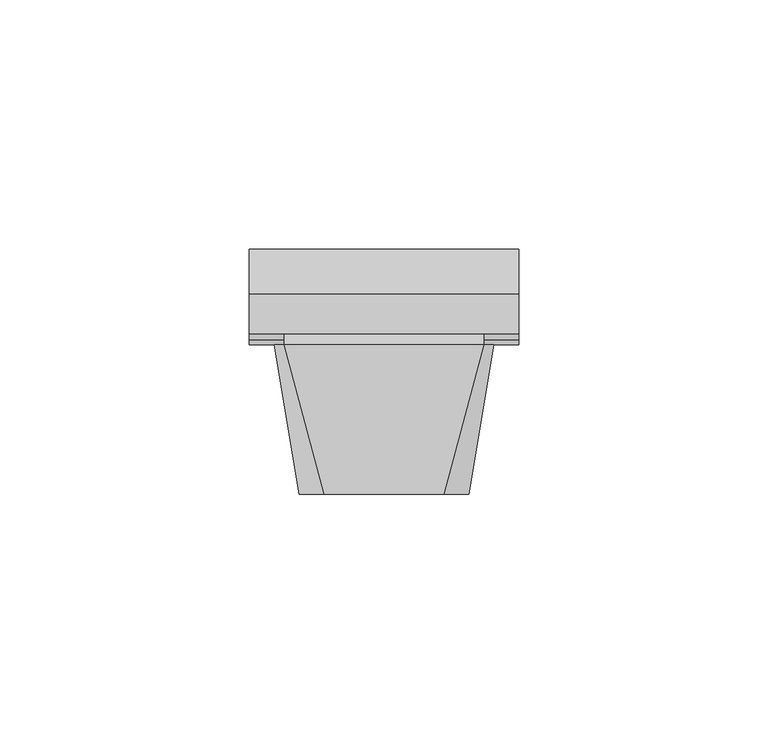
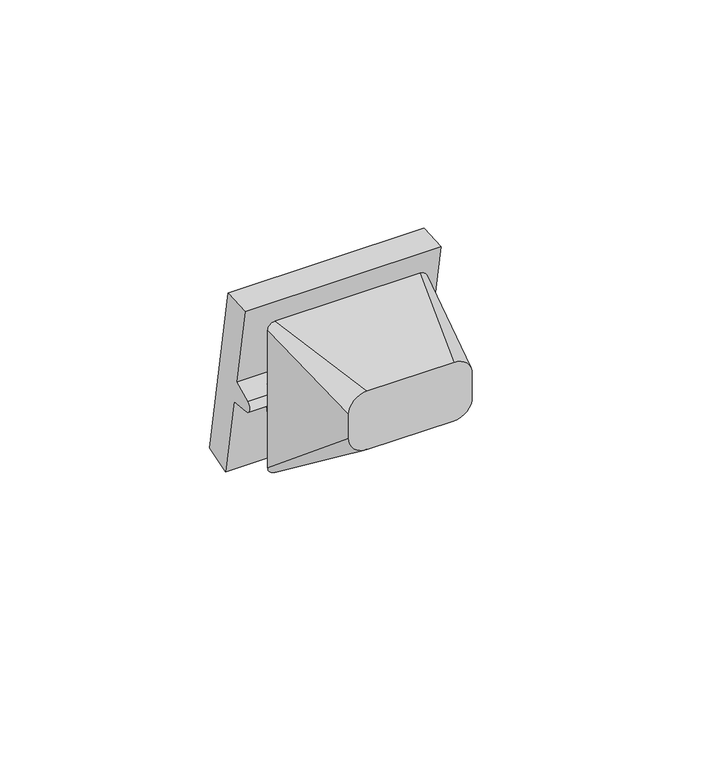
"""IFC4 building model written with IfcOpenShell, lengths in millimetres: proxy geometry, IEK_Brite_Механизм выключателя : В1 СВ_ВС10-1-4-БрА."""

from ifc_helpers import new_model, si_unit, point, frame, frame_2d, origin, place, context, project, spatial, polyline, circle_curve, trimmed, segment, composite_curve, outline, extrude, source, transform, mapped, element, save
from ifc_brep_helpers import plane_surface, spline_surface, advanced_brep


def electrical_fixtures_887a49c7(model_context):
    return source(origin(), model_context, "Body", "SolidModel", [
        advanced_brep(
        [(-12.0, -30.0, 17.0), (-17.0, -30.0, 12.0), (-17.0, -30.0, 5.0), (-12.0, -30.0, 0.0), (12.0, -30.0, 0.0), (17.0, -30.0, 5.0), (17.0, -30.0, 12.0), (12.0, -30.0, 17.0), (20.0, 0.0, 22.0), (22.0, 0.0, 20.0), (22.0, 0.0, -20.0), (20.0, 0.0, -22.0), (-20.0, 0.0, -22.0), (-22.0, 0.0, -20.0), (-22.0, 0.0, 20.0), (-20.0, 0.0, 22.0), (20.0, 4.4942733, -3.0892494), (-20.0, 4.4942733, -3.0892494)],
        [
            (0, 1, circle_curve(frame((-12.0, -30.0, 12.0), z_axis=(0.0, -1.0, 0.0), x_axis=(1.0, 0.0, 0.0)), 5.0)),
            (1, 2),
            (2, 3, circle_curve(frame((-12.0, -30.0, 5.0), z_axis=(0.0, -1.0, 0.0), x_axis=(1.0, 0.0, 0.0)), 5.0)),
            (3, 4),
            (4, 5, circle_curve(frame((12.0, -30.0, 5.0), z_axis=(0.0, -1.0, 0.0), x_axis=(1.0, 0.0, 0.0)), 5.0)),
            (5, 6),
            (6, 7, circle_curve(frame((12.0, -30.0, 12.0), z_axis=(0.0, -1.0, 0.0), x_axis=(1.0, 0.0, 0.0)), 5.0)),
            (7, 0),
            (8, 9, circle_curve(frame((20.0, 0.0, 20.0), z_axis=(0.0, 1.0, 0.0), x_axis=(1.0, 0.0, 0.0)), 2.0)),
            (9, 10),
            (10, 11, circle_curve(frame((20.0, 0.0, -20.0), z_axis=(0.0, 1.0, 0.0), x_axis=(1.0, 0.0, 0.0)), 2.0)),
            (11, 8),
            (12, 13, circle_curve(frame((-20.0, 0.0, -20.0), z_axis=(0.0, 1.0, 0.0), x_axis=(1.0, 0.0, 0.0)), 2.0)),
            (13, 14),
            (14, 15, circle_curve(frame((-20.0, 0.0, 20.0), z_axis=(0.0, 1.0, 0.0), x_axis=(1.0, 0.0, 0.0)), 2.0)),
            (15, 12),
            (7, 8),
            (8, 15),
            (15, 0),
            (6, 9),
            (5, 10),
            (4, 11),
            (3, 12),
            (12, 11),
            (2, 13),
            (1, 14),
            (11, 16),
            (16, 8),
            (15, 17),
            (17, 12),
            (17, 16),
        ],
        [
            plane_surface(frame((0.0, -30.0, 8.5), z_axis=(0.0, -1.0, 0.0), x_axis=(-1.0, 0.0, 0.0))),
            plane_surface(frame((0.0, 0.0, 0.0), z_axis=(0.0, 1.0, 0.0), x_axis=(-1.0, 0.0, 0.0))),
            plane_surface(frame((0.0, 0.0, 22.0), z_axis=(0.0, -0.16439898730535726, 0.9863939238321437), x_axis=(-1.0, 0.0, 0.0))),
            spline_surface(2, 1, [[(22.0, 0.0, 20.0), (17.0, -30.0, 12.0)], [(22.0, 0.0, 22.0), (17.0, -30.0, 17.0)], [(20.0, 0.0, 22.0), (12.0, -30.0, 17.0)]], [3, 3], [2, 2], [0.0, 1.0], [0.0, 1.0], weights=[[1.0, 1.0], [0.7071067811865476, 0.7071067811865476], [1.0, 1.0]]),
            plane_surface(frame((22.0, 0.0, 0.0), z_axis=(0.9863939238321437, -0.1643989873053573, 0.0), x_axis=(0.0, 0.0, 1.0))),
            spline_surface(2, 1, [[(20.0, 0.0, -22.0), (12.0, -30.0, 0.0)], [(22.0, 0.0, -22.0), (17.0, -30.0, 0.0)], [(22.0, 0.0, -20.0), (17.0, -30.0, 5.0)]], [3, 3], [2, 2], [0.0, 1.0], [0.0, 1.0], weights=[[1.0, 1.0], [0.7071067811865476, 0.7071067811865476], [1.0, 1.0]]),
            plane_surface(frame((0.0, 0.0, -22.0), z_axis=(0.0, -0.591363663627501, -0.8064049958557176), x_axis=(1.0, 0.0, 0.0))),
            spline_surface(2, 1, [[(-22.0, 0.0, -20.0), (-17.0, -30.0, 5.0)], [(-22.0, 0.0, -22.0), (-17.0, -30.0, 0.0)], [(-20.0, 0.0, -22.0), (-12.0, -30.0, 0.0)]], [3, 3], [2, 2], [0.0, 1.0], [0.0, 1.0], weights=[[1.0, 1.0], [0.7071067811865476, 0.7071067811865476], [1.0, 1.0]]),
            plane_surface(frame((-22.0, 0.0, 0.0), z_axis=(-0.9863939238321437, -0.1643989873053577, 0.0), x_axis=(0.0, 0.0, -1.0))),
            spline_surface(2, 1, [[(-20.0, 0.0, 22.0), (-12.0, -30.0, 17.0)], [(-22.0, 0.0, 22.0), (-17.0, -30.0, 17.0)], [(-22.0, 0.0, 20.0), (-17.0, -30.0, 12.0)]], [3, 3], [2, 2], [0.0, 1.0], [0.0, 1.0], weights=[[1.0, 1.0], [0.7071067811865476, 0.7071067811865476], [1.0, 1.0]]),
            plane_surface(frame((20.0, 0.0, -22.0), z_axis=(1.0, 0.0, 0.0), x_axis=(0.0, 0.23121707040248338, 0.9729021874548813))),
            plane_surface(frame((-20.0, 0.0, -22.0), z_axis=(-1.0, 0.0, 0.0), x_axis=(0.0, -0.23121707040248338, -0.9729021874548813))),
            plane_surface(frame((20.0, 0.0, -22.0), z_axis=(0.0, 0.9729021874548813, -0.23121707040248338), x_axis=(-1.0, 0.0, 0.0))),
            plane_surface(frame((20.0, 4.4942733, -3.0892494), z_axis=(0.0, 0.9843320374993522, 0.17632481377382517), x_axis=(-1.0, 0.0, 0.0))),
        ],
        [
            (0, [[1, 2, 3, 4, 5, 6, 7, 8]]),
            (1, [[9, 10, 11, 12]]),
            (1, [[13, 14, 15, 16]]),
            (2, [[-8, 17, 18, 19]]),
            (3, [[-7, 20, -9, -17]]),
            (4, [[-6, 21, -10, -20]]),
            (5, [[-5, 22, -11, -21]]),
            (6, [[-4, 23, 24, -22]]),
            (7, [[-3, 25, -13, -23]]),
            (8, [[-2, 26, -14, -25]]),
            (9, [[-1, -19, -15, -26]]),
            (10, [[27, 28, -12]]),
            (11, [[29, 30, -16]]),
            (12, [[-27, -24, -30, 31]]),
            (13, [[-28, -31, -29, -18]]),
        ],
    ),
        extrude(outline(composite_curve([segment(polyline([(19.1247035, -24.1237652), (11.4236286, -26.3320129), (7.3756597, -3.3748404), (1.5972872, -2.8692983)]), True, "CONTINUOUS"), segment(trimmed(circle_curve(frame_2d((1.7530049, -1.0894363)), 1.7866608), [point((1.5972872, -2.8692983))], [point((0.9979294, 0.5298284))], False, "CARTESIAN"), True, "CONTINUOUS"), segment(polyline([(0.9979294, 0.5298284), (6.2549179, 2.9812023), (2.206949, 25.9383748), (10.1988574, 26.4972235), (19.1247035, -24.1237652)]), True, "CONTINUOUS")], self_intersect=False)), frame((-27.0, 0.0, 0.0), z_axis=(1.0, 0.0, 0.0), x_axis=(0.0, 1.0, 0.0)), (0.0, 0.0, 1.0), 54.0),
    ])


if __name__ == "__main__":
    model = new_model("IFC4")
    model_context = context("Model", 3, world=origin())
    ifc_project = project(units=[si_unit("LENGTHUNIT", "METRE", prefix="MILLI")], contexts=[model_context])
    site = spatial("IfcSite", under=ifc_project)
    building = spatial("IfcBuilding", under=site)
    placement = place(None, origin())
    electrical_fixtures_shape = electrical_fixtures_887a49c7(model_context)
    element("IfcBuildingElementProxy", 1, Name="IEK_Brite_Механизм выключателя : В1 СВ_ВС10-1-4-БрА", ObjectType="IEK_Brite_Механизм выключателя : В1 СВ_ВС10-1-4-БрА", at=placement, inside=building, context=model_context, shape_type="MappedRepresentation", body=[
        mapped(electrical_fixtures_shape, transform((0.0, 0.0, 0.0), x_axis=(1.0, 0.0, 0.0), y_axis=(0.0, 1.0, 0.0), z_axis=(0.0, 0.0, 1.0))),
    ])
    save(model, "model.ifc")
